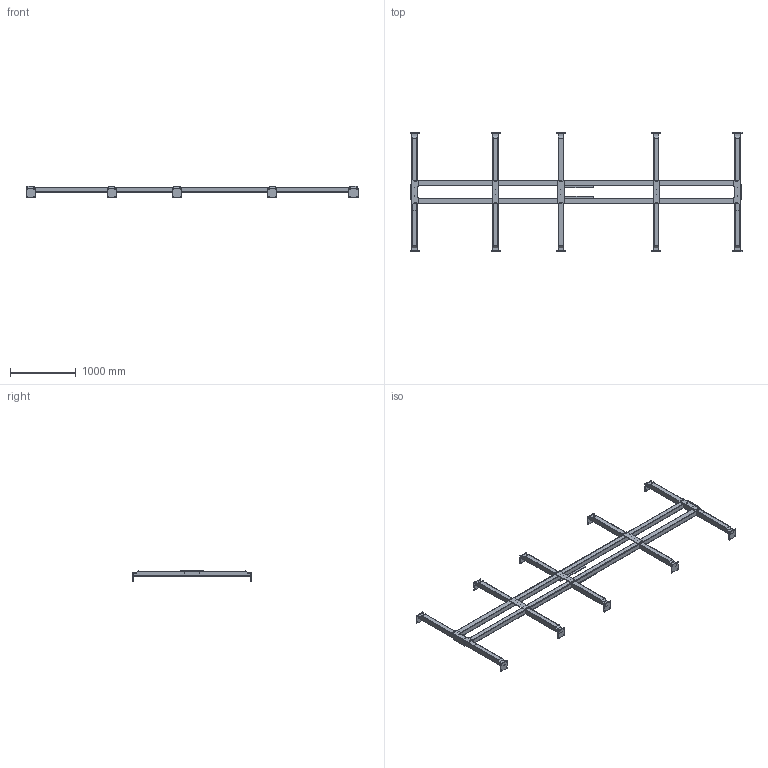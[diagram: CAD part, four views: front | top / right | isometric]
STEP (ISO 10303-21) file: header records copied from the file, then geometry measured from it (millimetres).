
FILE_DESCRIPTION(/* description */ ('Gestell'),/* implementation_level */ '2;1');
FILE_NAME(/* name */ '00054712.stp',/* time_stamp */ '2023-08-08T14:08:54+02:00',/* author */ ('MD18'),/* organization */ (''),/* preprocessor_version */ 'ST-DEVELOPER v19.2',/* originating_system */ 'Autodesk Inventor 2023',/* authorisation */ '');
FILE_SCHEMA (('AUTOMOTIVE_DESIGN { 1 0 10303 214 3 1 1 }'));
Length unit declared in the file: millimetre
Products named in the file (16): 00054712; 00054712-S02; 00054712-S01; 00054712-S02_1; 00054712-S01_1; 00054712-S06; 00054712-S03; 00054712-S03_1; 00054712-S03_2; 00054712-S06_1; 00054712-S05; 00054712-S05_1; 00054712-S04; 00054712-S08; 00054712-S07; 00054712-S09
Assembly tree (39 placements, depth 2):
  00054712
    00054712-S02
    00054712-S01
    00054712-S02_1
    00054712-S01_1
    00054712-S06
    00054712-S03
    00054712-S03_1
    00054712-S03_2
    00054712-S06_1
    00054712-S04  x2
    00054712-S09  x10
    00054712-S05
    00054712-S05_1
    00054712-S07  x10
    00054712-S08  x6
Bounding box: 5040 x 1810 x 170 mm (x, y, z)
Volume: 26227328.1 mm3; surface area: 11648659.4 mm2
Topology: 39 solids, 39 shells, 722 faces, 1882 edges, 1228 vertices
Faces by surface type: plane 452, cylinder 270
Full cylindrical faces by diameter (mm): 4.134 x6, 6 x20, 6.647 x16, 8.376 x48
Entity records: 10150 total; most frequent: DIRECTION 1714, CARTESIAN_POINT 1612, ORIENTED_EDGE 1532, EDGE_CURVE 766, AXIS2_PLACEMENT_3D 610, VERTEX_POINT 508, LINE 494, VECTOR 494
